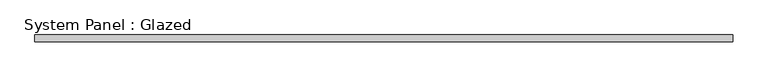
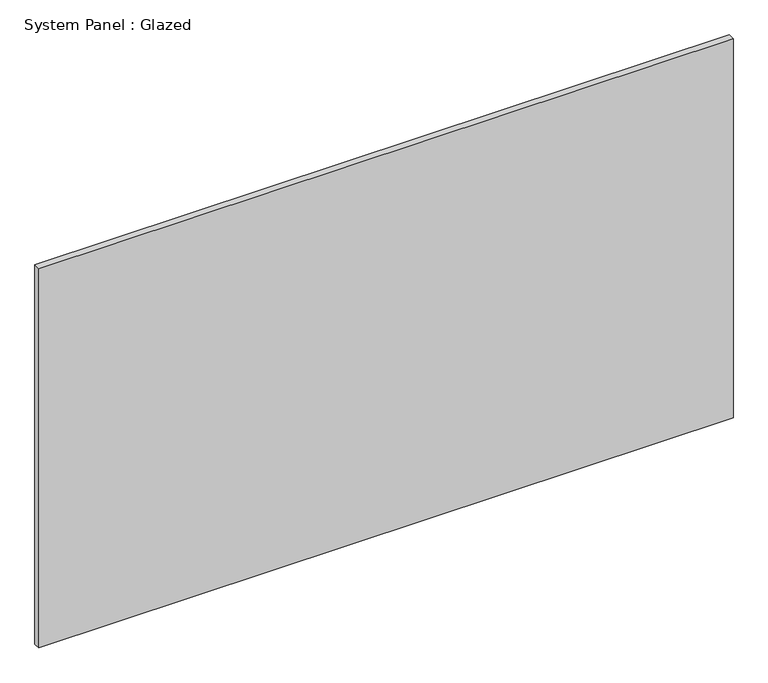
"""IFC4 building model written with IfcOpenShell, lengths in millimetres: plate geometry, System Panel : Glazed."""

from ifc_helpers import new_model, si_unit, origin, origin_with_axes, place, context, project, spatial, polyline, outline, extrude, source, transform, mapped, element, save


def system_panel_glazed_27cb410f(model_context):
    return source(origin(), model_context, "Body", "SweptSolid", [
        extrude(outline(polyline([(1319.7377931, 19.05), (-1319.7377931, 19.05), (-1319.7377931, 44.45), (1319.7377931, 44.45), (1319.7377931, 19.05)])), origin_with_axes(), (0.0, 0.0, 1.0), 1524.0),
    ])


if __name__ == "__main__":
    model = new_model("IFC4")
    model_context = context("Model", 3, world=origin())
    ifc_project = project(units=[si_unit("LENGTHUNIT", "METRE", prefix="MILLI")], contexts=[model_context])
    site = spatial("IfcSite", under=ifc_project)
    building = spatial("IfcBuilding", under=site)
    placement = place(None, origin())
    system_panel_glazed_shape = system_panel_glazed_27cb410f(model_context)
    element("IfcPlate", 1, ObjectType="System Panel : Glazed", at=placement, inside=building, context=model_context, shape_type="MappedRepresentation", body=[
        mapped(system_panel_glazed_shape, transform((0.0, 0.0, 0.0), x_axis=(1.0, 0.0, 0.0), y_axis=(0.0, 1.0, 0.0), z_axis=(0.0, 0.0, 1.0))),
    ])
    save(model, "model.ifc")
